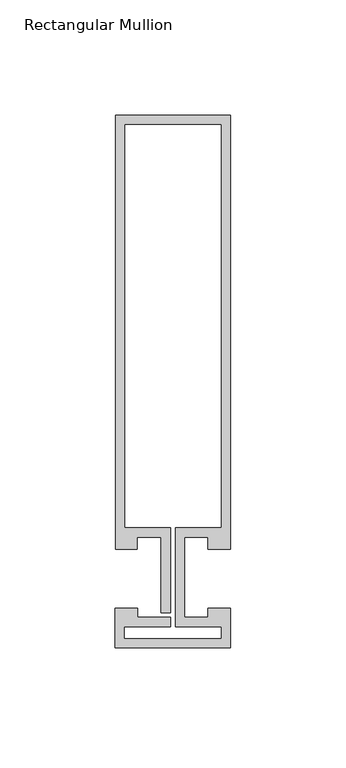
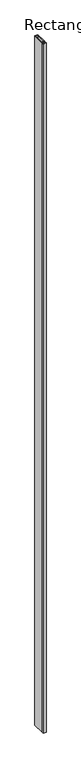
"""IFC4 building model written with IfcOpenShell, lengths in millimetres: member geometry, Rectangular Mullion : Reynaers_CW-50_Transom-Transom_188.5mm_Facecap-02B."""

import ifcopenshell
import ifcopenshell.guid

model = None  # the IFC model being written
_history = None  # IfcOwnerHistory: only IFC2X3 demands one
_inside = {}  # id of a spatial element -> (the spatial element, [elements in it])
_under = {}  # id of a project, library or spatial element -> (it, [spatial elements below it])
_declared = {}  # id of a project -> (the project, [libraries it declares])
_typed = {}  # id of a type object -> (the type object, [elements of that type])
_made_of = {}  # id of a material, layer set ... -> (it, [elements and type objects made of it])


def new_model(schema):
    """Start an empty IFC model of exactly this schema.

    Asked for "IFC4X3", IfcOpenShell would pick the latest addendum, in which some entities
    have other attributes; the version numbers below select the first issue.
    IFC2X3 requires an IfcOwnerHistory on every rooted entity: one is made here for all.
    """
    global model, _history
    if schema == "IFC4X3":
        model = ifcopenshell.file(schema_version=(4, 3, 0, 0))
    else:
        model = ifcopenshell.file(schema=schema)
    _inside.clear()
    _under.clear()
    _declared.clear()
    _typed.clear()
    _made_of.clear()
    _history = None
    if model.schema == "IFC2X3":
        org = make("IfcOrganization", Name="unknown")
        user = make(
            "IfcPersonAndOrganization",
            ThePerson=make("IfcPerson", FamilyName="unknown"),
            TheOrganization=org,
        )
        app = make(
            "IfcApplication",
            ApplicationDeveloper=org,
            Version="unknown",
            ApplicationFullName="unknown",
            ApplicationIdentifier="unknown",
        )
        _history = make(
            "IfcOwnerHistory",
            OwningUser=user,
            OwningApplication=app,
            ChangeAction="ADDED",
            CreationDate=0,
        )
    return model


def make(cls, **values):
    """One entity of the class cls with the attributes given. An attribute that is None is left unset."""
    return model.create_entity(
        cls, **{name: value for name, value in values.items() if value is not None}
    )


def rooted(cls, **values):
    """An entity with a GlobalId (a new one), such as an element, a storey or a relation."""
    return make(cls, GlobalId=ifcopenshell.guid.new(), OwnerHistory=_history, **values)


def si_unit(unit_type, name, prefix=None):
    """IfcSIUnit, for example si_unit("LENGTHUNIT", "METRE", prefix="MILLI")."""
    return make("IfcSIUnit", UnitType=unit_type, Prefix=prefix, Name=name)


def assignment(units):
    """IfcUnitAssignment: the units of a project."""
    return None if units is None else make("IfcUnitAssignment", Units=units)


def point(xyz):
    """IfcCartesianPoint."""
    return None if xyz is None else make("IfcCartesianPoint", Coordinates=xyz)


def direction(xyz):
    """IfcDirection."""
    return None if xyz is None else make("IfcDirection", DirectionRatios=xyz)


def frame(location, z_axis=None, x_axis=None):
    """IfcAxis2Placement3D, a coordinate frame: its origin and axes. An axis left out is left unset."""
    return make(
        "IfcAxis2Placement3D",
        Location=point(location),
        Axis=direction(z_axis),
        RefDirection=direction(x_axis),
    )


def origin():
    """The frame at (0, 0, 0) with its axes left unset."""
    return frame((0.0, 0.0, 0.0))


def place(relative_to, where):
    """IfcLocalPlacement: puts the frame where relative to a parent placement (None: the world)."""
    return make(
        "IfcLocalPlacement", PlacementRelTo=relative_to, RelativePlacement=where
    )


def context(
    kind, dimensions, precision=None, world=None, true_north=None, identifier=None
):
    """IfcGeometricRepresentationContext, for example the 3D "Model" context."""
    return make(
        "IfcGeometricRepresentationContext",
        ContextIdentifier=identifier,
        ContextType=kind,
        CoordinateSpaceDimension=dimensions,
        Precision=precision,
        WorldCoordinateSystem=world,
        TrueNorth=true_north,
    )


def project(units=None, contexts=None):
    """IfcProject with its units and contexts."""
    return rooted(
        "IfcProject",
        Name="project",
        RepresentationContexts=contexts,
        UnitsInContext=assignment(units),
    )


def spatial(cls, under=None, at=None, **own):
    """A site, building, storey or space (cls), placed at a placement, below another one or the project."""
    s = rooted(cls, ObjectPlacement=at, **own)
    if under is not None:
        _under.setdefault(under.id(), (under, []))[1].append(s)
    return s


def polyline(points):
    """IfcPolyline through the points."""
    return make("IfcPolyline", Points=[point(p) for p in points])


def outline(outer, holes=None, kind="AREA"):
    """IfcArbitraryClosedProfileDef: a profile drawn as a closed curve; with holes, ...WithVoids."""
    if holes is None:
        return make("IfcArbitraryClosedProfileDef", ProfileType=kind, OuterCurve=outer)
    return make(
        "IfcArbitraryProfileDefWithVoids",
        ProfileType=kind,
        OuterCurve=outer,
        InnerCurves=holes,
    )


def extrude(swept, where, along, depth):
    """IfcExtrudedAreaSolid: the profile swept, set in the frame where, extruded along a direction by depth."""
    return make(
        "IfcExtrudedAreaSolid",
        SweptArea=swept,
        Position=where,
        ExtrudedDirection=direction(along),
        Depth=depth,
    )


def shape(context_of_items, identifier, shape_type, items):
    """IfcShapeRepresentation: the items that make up one representation, for example the "Body"."""
    return make(
        "IfcShapeRepresentation",
        ContextOfItems=context_of_items,
        RepresentationIdentifier=identifier,
        RepresentationType=shape_type,
        Items=items,
    )


def source(mapping_origin, context_of_items, identifier, shape_type, items):
    """IfcRepresentationMap: a shape defined once, which mapped items show again and again."""
    return make(
        "IfcRepresentationMap",
        MappingOrigin=mapping_origin,
        MappedRepresentation=shape(context_of_items, identifier, shape_type, items),
    )


def transform(
    local_origin,
    x_axis=None,
    y_axis=None,
    z_axis=None,
    scale=None,
    scale2=None,
    scale3=None,
    uniform=True,
):
    """IfcCartesianTransformationOperator3D, or its non-uniform kind. x_axis, y_axis, z_axis: its Axis1, 2, 3."""
    if uniform:
        return make(
            "IfcCartesianTransformationOperator3D",
            Axis1=direction(x_axis),
            Axis2=direction(y_axis),
            LocalOrigin=point(local_origin),
            Scale=scale,
            Axis3=direction(z_axis),
        )
    return make(
        "IfcCartesianTransformationOperator3DnonUniform",
        Axis1=direction(x_axis),
        Axis2=direction(y_axis),
        LocalOrigin=point(local_origin),
        Scale=scale,
        Axis3=direction(z_axis),
        Scale2=scale2,
        Scale3=scale3,
    )


def mapped(mapping_source, mapping_target):
    """IfcMappedItem: shows the shape of a source again, moved by a transform."""
    return make(
        "IfcMappedItem", MappingSource=mapping_source, MappingTarget=mapping_target
    )


def made_of(thing, what):
    """Note that an element or type object is made of a material, layer set ...; save() writes the relation."""
    if what is not None:
        _made_of.setdefault(what.id(), (what, []))[1].append(thing)
    return thing


def element(
    cls,
    number,
    at=None,
    inside=None,
    cuts=None,
    type_object=None,
    material=None,
    context=None,
    identifier="Body",
    shape_type=None,
    held_by="IfcProductDefinitionShape",
    body=None,
    shapes=None,
    **own,
):
    """One element of the class cls, such as IfcWall. Its Tag is "e" and its number.

    at: its placement. inside: the storey or other place that contains it. cuts: it is an
    opening in that element (IfcRelVoidsElement). A single representation is given by context,
    identifier, shape_type and body (its items); several are given by shapes. held_by: the class
    of the entity that holds the representations. save() writes the other relations.
    """
    e = rooted(cls, Tag="e%d" % number, ObjectPlacement=at, **own)
    if body is not None:
        shapes = [shape(context, identifier, shape_type, body)]
    if shapes is not None:
        e.Representation = make(held_by, Representations=shapes)
    if inside is not None:
        _inside.setdefault(inside.id(), (inside, []))[1].append(e)
    if cuts is not None:
        rooted(
            "IfcRelVoidsElement", RelatingBuildingElement=cuts, RelatedOpeningElement=e
        )
    if type_object is not None:
        _typed.setdefault(type_object.id(), (type_object, []))[1].append(e)
    return made_of(e, material)


def aggregate(whole, parts):
    """IfcRelAggregates: a whole, such as a stair, and the parts it consists of."""
    return rooted("IfcRelAggregates", RelatingObject=whole, RelatedObjects=parts)


def save(model, path):
    """Write the relations noted so far, then the file.

    IfcRelAggregates (storeys below a building ...), IfcRelContainedInSpatialStructure (elements
    in a storey), IfcRelDefinesByType, IfcRelAssociatesMaterial and IfcRelDeclares: one each for
    every whole, place, type object, material and project.
    """
    for whole, parts in _under.values():
        aggregate(whole, parts)
    for where, things in _inside.values():
        rooted(
            "IfcRelContainedInSpatialStructure",
            RelatedElements=things,
            RelatingStructure=where,
        )
    for kind, things in _typed.values():
        rooted("IfcRelDefinesByType", RelatedObjects=things, RelatingType=kind)
    for what, things in _made_of.values():
        rooted("IfcRelAssociatesMaterial", RelatedObjects=things, RelatingMaterial=what)
    for by, libraries in _declared.values():
        rooted("IfcRelDeclares", RelatingContext=by, RelatedDefinitions=libraries)
    model.write(path)


def rectangular_mullion_65957ae0(model_context):
    return source(origin(), model_context, "Body", "SweptSolid", [
        extrude(outline(polyline([(25.1995941, -12.7331291), (25.1995941, -30.0331291), (-24.994845, -30.0331291), (-24.994845, -12.7331291), (-15.2996495, -12.7331291), (-15.2996495, -16.7331291), (-0.9004059, -16.7331291), (-0.9004059, -20.7331291), (-20.994845, -20.7331291), (-20.994845, -26.0331291), (21.1995941, -26.0331291), (21.1995941, -20.7331291), (1.2995941, -20.7331291), (1.2995941, 22.1331291), (21.1995941, 22.1331291), (21.1995941, 197.2331291), (-20.8004059, 197.2331291), (-20.8004059, 22.1331291), (-0.9004059, 22.1331291), (-0.9004059, -14.7331291), (-4.9004059, -14.7331291), (-4.9004059, 18.1331291), (-15.499, 18.1331291), (-15.499, 12.7331291), (-24.8004059, 12.7331291), (-24.8004059, 201.2331291), (25.1995941, 201.2331291), (25.1995941, 12.7331291), (15.499, 12.7331291), (15.499, 18.1331291), (5.2995941, 18.1331291), (5.2995941, -16.7331291), (15.2996495, -16.7331291), (15.2996495, -12.7331291), (25.1995941, -12.7331291)])), frame((0.0, 0.0, -12000.0), z_axis=(0.0, 0.0, 1.0), x_axis=(1.0, 0.0, 0.0)), (0.0, 0.0, 1.0), 12000.0),
    ])


if __name__ == "__main__":
    model = new_model("IFC4")
    model_context = context("Model", 3, world=origin())
    ifc_project = project(units=[si_unit("LENGTHUNIT", "METRE", prefix="MILLI")], contexts=[model_context])
    site = spatial("IfcSite", under=ifc_project)
    building = spatial("IfcBuilding", under=site)
    placement = place(None, origin())
    rectangular_mullion_shape = rectangular_mullion_65957ae0(model_context)
    element("IfcMember", 1, ObjectType="Rectangular Mullion : Reynaers_CW-50_Transom-Transom_188.5mm_Facecap-02B", at=placement, inside=building, context=model_context, shape_type="MappedRepresentation", body=[
        mapped(rectangular_mullion_shape, transform((0.0, 0.0, 0.0), x_axis=(1.0, 0.0, 0.0), y_axis=(0.0, 1.0, 0.0), z_axis=(0.0, 0.0, 1.0))),
    ])
    save(model, "model.ifc")
